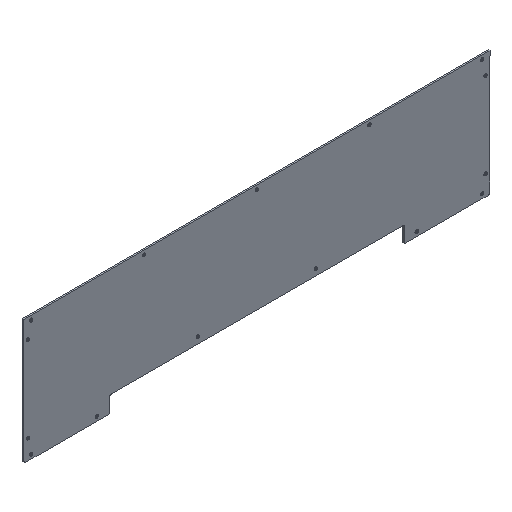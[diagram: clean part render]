
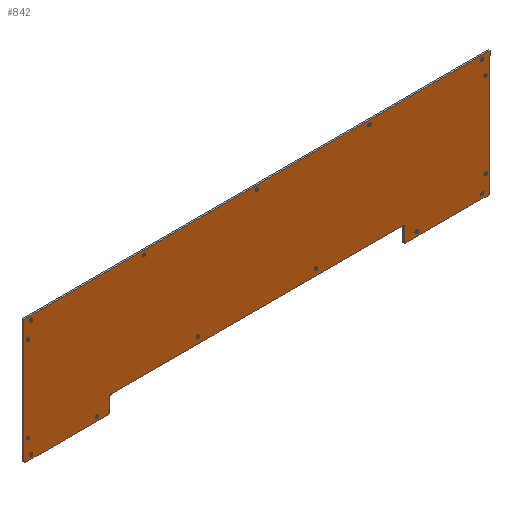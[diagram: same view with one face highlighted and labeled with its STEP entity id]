
A CAD part, isometric view. The second image highlights one B-rep face of the part: STEP entity #842.
In plain terms, the highlighted planar face has unit normal (0, -1, 0).
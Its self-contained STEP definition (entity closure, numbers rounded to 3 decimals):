
#29=FACE_BOUND('',#176,.T.);
#30=FACE_BOUND('',#177,.T.);
#31=FACE_BOUND('',#178,.T.);
#32=FACE_BOUND('',#179,.T.);
#33=FACE_BOUND('',#180,.T.);
#34=FACE_BOUND('',#181,.T.);
#35=FACE_BOUND('',#182,.T.);
#36=FACE_BOUND('',#183,.T.);
#37=FACE_BOUND('',#184,.T.);
#38=FACE_BOUND('',#185,.T.);
#39=FACE_BOUND('',#186,.T.);
#40=FACE_BOUND('',#187,.T.);
#41=FACE_BOUND('',#188,.T.);
#42=FACE_BOUND('',#189,.T.);
#43=FACE_BOUND('',#190,.T.);
#53=PLANE('',#953);
#116=FACE_OUTER_BOUND('',#175,.T.);
#175=EDGE_LOOP('',(#735,#736,#737,#738,#739,#740,#741,#742,#743,#744,#745,
#746));
#176=EDGE_LOOP('',(#747));
#177=EDGE_LOOP('',(#748));
#178=EDGE_LOOP('',(#749));
#179=EDGE_LOOP('',(#750));
#180=EDGE_LOOP('',(#751));
#181=EDGE_LOOP('',(#752));
#182=EDGE_LOOP('',(#753));
#183=EDGE_LOOP('',(#754));
#184=EDGE_LOOP('',(#755));
#185=EDGE_LOOP('',(#756));
#186=EDGE_LOOP('',(#757));
#187=EDGE_LOOP('',(#758));
#188=EDGE_LOOP('',(#759));
#189=EDGE_LOOP('',(#760));
#190=EDGE_LOOP('',(#761));
#224=LINE('',#1372,#282);
#227=LINE('',#1378,#285);
#230=LINE('',#1384,#288);
#234=LINE('',#1396,#292);
#237=LINE('',#1402,#295);
#241=LINE('',#1414,#299);
#245=LINE('',#1426,#303);
#248=LINE('',#1430,#306);
#282=VECTOR('',#1147,10.);
#285=VECTOR('',#1152,10.);
#288=VECTOR('',#1157,10.);
#292=VECTOR('',#1169,10.);
#295=VECTOR('',#1174,10.);
#299=VECTOR('',#1186,10.);
#303=VECTOR('',#1198,10.);
#306=VECTOR('',#1203,10.);
#309=CIRCLE('',#861,2.248);
#312=CIRCLE('',#866,2.248);
#315=CIRCLE('',#871,2.248);
#318=CIRCLE('',#876,2.248);
#321=CIRCLE('',#881,2.248);
#324=CIRCLE('',#886,2.248);
#327=CIRCLE('',#891,2.248);
#330=CIRCLE('',#896,2.248);
#333=CIRCLE('',#901,2.248);
#336=CIRCLE('',#906,2.248);
#339=CIRCLE('',#911,2.248);
#342=CIRCLE('',#916,2.248);
#345=CIRCLE('',#921,2.248);
#348=CIRCLE('',#926,2.248);
#351=CIRCLE('',#931,2.248);
#353=CIRCLE('',#934,3.);
#355=CIRCLE('',#940,3.);
#357=CIRCLE('',#945,3.);
#359=CIRCLE('',#949,3.);
#362=VERTEX_POINT('',#1216);
#365=VERTEX_POINT('',#1226);
#368=VERTEX_POINT('',#1236);
#371=VERTEX_POINT('',#1246);
#374=VERTEX_POINT('',#1256);
#377=VERTEX_POINT('',#1266);
#380=VERTEX_POINT('',#1276);
#383=VERTEX_POINT('',#1286);
#386=VERTEX_POINT('',#1296);
#389=VERTEX_POINT('',#1306);
#392=VERTEX_POINT('',#1316);
#395=VERTEX_POINT('',#1326);
#398=VERTEX_POINT('',#1336);
#401=VERTEX_POINT('',#1346);
#404=VERTEX_POINT('',#1356);
#407=VERTEX_POINT('',#1363);
#408=VERTEX_POINT('',#1365);
#410=VERTEX_POINT('',#1371);
#412=VERTEX_POINT('',#1377);
#414=VERTEX_POINT('',#1383);
#416=VERTEX_POINT('',#1389);
#418=VERTEX_POINT('',#1395);
#420=VERTEX_POINT('',#1401);
#422=VERTEX_POINT('',#1407);
#424=VERTEX_POINT('',#1413);
#426=VERTEX_POINT('',#1419);
#428=VERTEX_POINT('',#1425);
#433=EDGE_CURVE('',#362,#362,#309,.T.);
#438=EDGE_CURVE('',#365,#365,#312,.T.);
#443=EDGE_CURVE('',#368,#368,#315,.T.);
#448=EDGE_CURVE('',#371,#371,#318,.T.);
#453=EDGE_CURVE('',#374,#374,#321,.T.);
#458=EDGE_CURVE('',#377,#377,#324,.T.);
#463=EDGE_CURVE('',#380,#380,#327,.T.);
#468=EDGE_CURVE('',#383,#383,#330,.T.);
#473=EDGE_CURVE('',#386,#386,#333,.T.);
#478=EDGE_CURVE('',#389,#389,#336,.T.);
#483=EDGE_CURVE('',#392,#392,#339,.T.);
#488=EDGE_CURVE('',#395,#395,#342,.T.);
#493=EDGE_CURVE('',#398,#398,#345,.T.);
#498=EDGE_CURVE('',#401,#401,#348,.T.);
#503=EDGE_CURVE('',#404,#404,#351,.T.);
#506=EDGE_CURVE('',#408,#407,#353,.T.);
#509=EDGE_CURVE('',#410,#408,#224,.T.);
#512=EDGE_CURVE('',#412,#410,#227,.T.);
#515=EDGE_CURVE('',#414,#412,#230,.T.);
#518=EDGE_CURVE('',#416,#414,#355,.T.);
#521=EDGE_CURVE('',#418,#416,#234,.T.);
#524=EDGE_CURVE('',#420,#418,#237,.T.);
#527=EDGE_CURVE('',#422,#420,#357,.T.);
#530=EDGE_CURVE('',#424,#422,#241,.T.);
#533=EDGE_CURVE('',#426,#424,#359,.T.);
#536=EDGE_CURVE('',#428,#426,#245,.T.);
#539=EDGE_CURVE('',#407,#428,#248,.T.);
#735=ORIENTED_EDGE('',*,*,#539,.T.);
#736=ORIENTED_EDGE('',*,*,#536,.T.);
#737=ORIENTED_EDGE('',*,*,#533,.T.);
#738=ORIENTED_EDGE('',*,*,#530,.T.);
#739=ORIENTED_EDGE('',*,*,#527,.T.);
#740=ORIENTED_EDGE('',*,*,#524,.T.);
#741=ORIENTED_EDGE('',*,*,#521,.T.);
#742=ORIENTED_EDGE('',*,*,#518,.T.);
#743=ORIENTED_EDGE('',*,*,#515,.T.);
#744=ORIENTED_EDGE('',*,*,#512,.T.);
#745=ORIENTED_EDGE('',*,*,#509,.T.);
#746=ORIENTED_EDGE('',*,*,#506,.T.);
#747=ORIENTED_EDGE('',*,*,#433,.T.);
#748=ORIENTED_EDGE('',*,*,#438,.T.);
#749=ORIENTED_EDGE('',*,*,#443,.T.);
#750=ORIENTED_EDGE('',*,*,#448,.T.);
#751=ORIENTED_EDGE('',*,*,#453,.T.);
#752=ORIENTED_EDGE('',*,*,#458,.T.);
#753=ORIENTED_EDGE('',*,*,#463,.T.);
#754=ORIENTED_EDGE('',*,*,#468,.T.);
#755=ORIENTED_EDGE('',*,*,#473,.T.);
#756=ORIENTED_EDGE('',*,*,#478,.T.);
#757=ORIENTED_EDGE('',*,*,#483,.T.);
#758=ORIENTED_EDGE('',*,*,#488,.T.);
#759=ORIENTED_EDGE('',*,*,#493,.T.);
#760=ORIENTED_EDGE('',*,*,#498,.T.);
#761=ORIENTED_EDGE('',*,*,#503,.T.);
#842=ADVANCED_FACE('',(#116,#29,#30,#31,#32,#33,#34,#35,#36,#37,#38,#39,
#40,#41,#42,#43),#53,.F.);
#861=AXIS2_PLACEMENT_3D('',#1218,#966,#967);
#866=AXIS2_PLACEMENT_3D('',#1228,#978,#979);
#871=AXIS2_PLACEMENT_3D('',#1238,#990,#991);
#876=AXIS2_PLACEMENT_3D('',#1248,#1002,#1003);
#881=AXIS2_PLACEMENT_3D('',#1258,#1014,#1015);
#886=AXIS2_PLACEMENT_3D('',#1268,#1026,#1027);
#891=AXIS2_PLACEMENT_3D('',#1278,#1038,#1039);
#896=AXIS2_PLACEMENT_3D('',#1288,#1050,#1051);
#901=AXIS2_PLACEMENT_3D('',#1298,#1062,#1063);
#906=AXIS2_PLACEMENT_3D('',#1308,#1074,#1075);
#911=AXIS2_PLACEMENT_3D('',#1318,#1086,#1087);
#916=AXIS2_PLACEMENT_3D('',#1328,#1098,#1099);
#921=AXIS2_PLACEMENT_3D('',#1338,#1110,#1111);
#926=AXIS2_PLACEMENT_3D('',#1348,#1122,#1123);
#931=AXIS2_PLACEMENT_3D('',#1358,#1134,#1135);
#934=AXIS2_PLACEMENT_3D('',#1366,#1141,#1142);
#940=AXIS2_PLACEMENT_3D('',#1390,#1163,#1164);
#945=AXIS2_PLACEMENT_3D('',#1408,#1180,#1181);
#949=AXIS2_PLACEMENT_3D('',#1420,#1192,#1193);
#953=AXIS2_PLACEMENT_3D('',#1432,#1206,#1207);
#966=DIRECTION('center_axis',(0.,1.,0.));
#967=DIRECTION('ref_axis',(0.,0.,1.));
#978=DIRECTION('center_axis',(0.,1.,0.));
#979=DIRECTION('ref_axis',(0.,0.,1.));
#990=DIRECTION('center_axis',(0.,1.,0.));
#991=DIRECTION('ref_axis',(0.,0.,1.));
#1002=DIRECTION('center_axis',(0.,1.,0.));
#1003=DIRECTION('ref_axis',(0.,0.,1.));
#1014=DIRECTION('center_axis',(0.,1.,0.));
#1015=DIRECTION('ref_axis',(0.,0.,1.));
#1026=DIRECTION('center_axis',(0.,1.,0.));
#1027=DIRECTION('ref_axis',(0.,0.,1.));
#1038=DIRECTION('center_axis',(0.,1.,0.));
#1039=DIRECTION('ref_axis',(0.,0.,1.));
#1050=DIRECTION('center_axis',(0.,1.,0.));
#1051=DIRECTION('ref_axis',(0.,0.,1.));
#1062=DIRECTION('center_axis',(0.,1.,0.));
#1063=DIRECTION('ref_axis',(0.,0.,1.));
#1074=DIRECTION('center_axis',(0.,1.,0.));
#1075=DIRECTION('ref_axis',(0.,0.,1.));
#1086=DIRECTION('center_axis',(0.,1.,0.));
#1087=DIRECTION('ref_axis',(0.,0.,1.));
#1098=DIRECTION('center_axis',(0.,1.,0.));
#1099=DIRECTION('ref_axis',(0.,0.,1.));
#1110=DIRECTION('center_axis',(0.,1.,0.));
#1111=DIRECTION('ref_axis',(0.,0.,1.));
#1122=DIRECTION('center_axis',(0.,1.,0.));
#1123=DIRECTION('ref_axis',(0.,0.,1.));
#1134=DIRECTION('center_axis',(0.,1.,0.));
#1135=DIRECTION('ref_axis',(0.,0.,1.));
#1141=DIRECTION('center_axis',(0.,-1.,0.));
#1142=DIRECTION('ref_axis',(0.,0.,-1.));
#1147=DIRECTION('',(0.,0.,-1.));
#1152=DIRECTION('',(-1.,0.,0.));
#1157=DIRECTION('',(0.,0.,1.));
#1163=DIRECTION('center_axis',(0.,-1.,0.));
#1164=DIRECTION('ref_axis',(1.,0.,0.));
#1169=DIRECTION('',(1.,0.,0.));
#1174=DIRECTION('',(0.,0.,-1.));
#1180=DIRECTION('center_axis',(0.,1.,0.));
#1181=DIRECTION('ref_axis',(0.,0.,1.));
#1186=DIRECTION('',(1.,0.,0.));
#1192=DIRECTION('center_axis',(0.,1.,0.));
#1193=DIRECTION('ref_axis',(-1.,0.,0.));
#1198=DIRECTION('',(0.,0.,1.));
#1203=DIRECTION('',(1.,0.,0.));
#1206=DIRECTION('center_axis',(0.,1.,0.));
#1207=DIRECTION('ref_axis',(1.,0.,0.));
#1216=CARTESIAN_POINT('',(-150.85,-3.,-32.333));
#1218=CARTESIAN_POINT('Origin',(-150.85,-3.,-30.085));
#1226=CARTESIAN_POINT('',(-256.,-3.,-8.683));
#1228=CARTESIAN_POINT('Origin',(-256.,-3.,-6.435));
#1236=CARTESIAN_POINT('',(-250.85,-3.,144.767));
#1238=CARTESIAN_POINT('Origin',(-250.85,-3.,147.015));
#1246=CARTESIAN_POINT('',(93.15,-3.,144.767));
#1248=CARTESIAN_POINT('Origin',(93.15,-3.,147.015));
#1256=CARTESIAN_POINT('',(183.15,-3.,-4.333));
#1258=CARTESIAN_POINT('Origin',(183.15,-3.,-2.085));
#1266=CARTESIAN_POINT('',(442.3,-3.,-8.683));
#1268=CARTESIAN_POINT('Origin',(442.3,-3.,-6.435));
#1276=CARTESIAN_POINT('',(442.3,-3.,121.194));
#1278=CARTESIAN_POINT('Origin',(442.3,-3.,123.442));
#1286=CARTESIAN_POINT('',(437.15,-3.,144.767));
#1288=CARTESIAN_POINT('Origin',(437.15,-3.,147.015));
#1296=CARTESIAN_POINT('',(437.15,-3.,-32.333));
#1298=CARTESIAN_POINT('Origin',(437.15,-3.,-30.085));
#1306=CARTESIAN_POINT('',(337.15,-3.,-32.333));
#1308=CARTESIAN_POINT('Origin',(337.15,-3.,-30.085));
#1316=CARTESIAN_POINT('',(265.15,-3.,144.767));
#1318=CARTESIAN_POINT('Origin',(265.15,-3.,147.015));
#1326=CARTESIAN_POINT('',(-78.85,-3.,144.767));
#1328=CARTESIAN_POINT('Origin',(-78.85,-3.,147.015));
#1336=CARTESIAN_POINT('',(-256.,-3.,121.194));
#1338=CARTESIAN_POINT('Origin',(-256.,-3.,123.442));
#1346=CARTESIAN_POINT('',(-250.85,-3.,-32.333));
#1348=CARTESIAN_POINT('Origin',(-250.85,-3.,-30.085));
#1356=CARTESIAN_POINT('',(3.15,-3.,-4.333));
#1358=CARTESIAN_POINT('Origin',(3.15,-3.,-2.085));
#1363=CARTESIAN_POINT('',(-259.35,-3.,-36.435));
#1365=CARTESIAN_POINT('',(-262.35,-3.,-33.435));
#1366=CARTESIAN_POINT('Origin',(-259.35,-3.,-33.435));
#1371=CARTESIAN_POINT('',(-262.35,-3.,153.365));
#1372=CARTESIAN_POINT('',(-262.35,-3.,153.365));
#1377=CARTESIAN_POINT('',(448.65,-3.,153.365));
#1378=CARTESIAN_POINT('',(448.65,-3.,153.365));
#1383=CARTESIAN_POINT('',(448.65,-3.,-33.435));
#1384=CARTESIAN_POINT('',(448.65,-3.,153.365));
#1389=CARTESIAN_POINT('',(445.65,-3.,-36.435));
#1390=CARTESIAN_POINT('Origin',(445.65,-3.,-33.435));
#1395=CARTESIAN_POINT('',(318.15,-3.,-36.435));
#1396=CARTESIAN_POINT('',(445.65,-3.,-36.435));
#1401=CARTESIAN_POINT('',(318.15,-3.,-14.435));
#1402=CARTESIAN_POINT('',(318.15,-3.,-36.435));
#1407=CARTESIAN_POINT('',(315.15,-3.,-11.435));
#1408=CARTESIAN_POINT('Origin',(315.15,-3.,-14.435));
#1413=CARTESIAN_POINT('',(-128.85,-3.,-11.435));
#1414=CARTESIAN_POINT('',(-128.85,-3.,-11.435));
#1419=CARTESIAN_POINT('',(-131.85,-3.,-14.435));
#1420=CARTESIAN_POINT('Origin',(-128.85,-3.,-14.435));
#1425=CARTESIAN_POINT('',(-131.85,-3.,-36.435));
#1426=CARTESIAN_POINT('',(-131.85,-3.,-36.435));
#1430=CARTESIAN_POINT('',(-131.85,-3.,-36.435));
#1432=CARTESIAN_POINT('Origin',(93.15,-3.,58.465));
